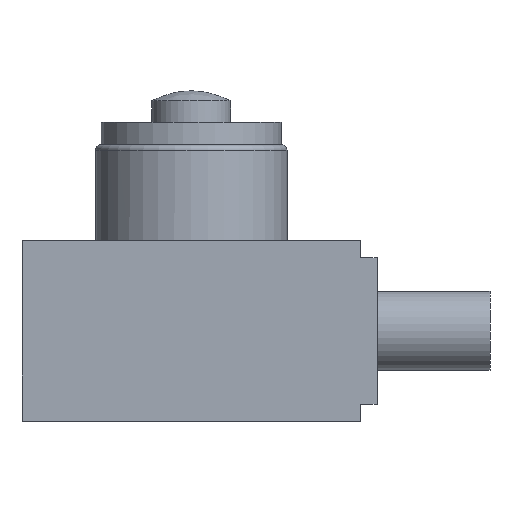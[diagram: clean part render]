
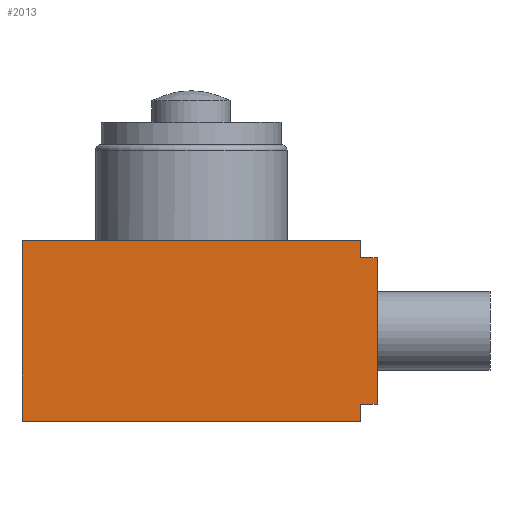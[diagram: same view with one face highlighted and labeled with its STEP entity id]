
A CAD part, front view. The second image highlights one B-rep face of the part: STEP entity #2013.
In plain terms, the highlighted planar face has unit normal (0, -1, 0) as drawn and (0, 0, -1) by its records, which use the part's own axes.
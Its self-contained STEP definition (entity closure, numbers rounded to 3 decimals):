
#125=LINE('',#3164,#297);
#129=LINE('',#3175,#301);
#137=LINE('',#3190,#309);
#169=LINE('',#3293,#341);
#185=LINE('',#3338,#357);
#201=LINE('',#3371,#373);
#204=LINE('',#3376,#376);
#205=LINE('',#3378,#377);
#297=VECTOR('',#2594,13.);
#301=VECTOR('',#2602,1.5);
#309=VECTOR('',#2610,1.5);
#341=VECTOR('',#2714,30.);
#357=VECTOR('',#2758,16.);
#373=VECTOR('',#2796,30.);
#376=VECTOR('',#2803,1.5);
#377=VECTOR('',#2806,1.5);
#443=PLANE('',#2222);
#657=FACE_OUTER_BOUND('',#807,.T.);
#807=EDGE_LOOP('',(#1846,#1847,#1848,#1849,#1850,#1851,#1852,#1853));
#1006=VERTEX_POINT('',#3161);
#1007=VERTEX_POINT('',#3163);
#1009=VERTEX_POINT('',#3168);
#1011=VERTEX_POINT('',#3172);
#1012=VERTEX_POINT('',#3174);
#1019=VERTEX_POINT('',#3188);
#1054=VERTEX_POINT('',#3291);
#1069=VERTEX_POINT('',#3336);
#1231=EDGE_CURVE('',#1007,#1006,#125,.T.);
#1236=EDGE_CURVE('',#1012,#1011,#129,.T.);
#1244=EDGE_CURVE('',#1009,#1019,#137,.T.);
#1293=EDGE_CURVE('',#1019,#1054,#169,.T.);
#1315=EDGE_CURVE('',#1069,#1054,#185,.T.);
#1332=EDGE_CURVE('',#1069,#1012,#201,.T.);
#1335=EDGE_CURVE('',#1011,#1007,#204,.T.);
#1336=EDGE_CURVE('',#1009,#1006,#205,.T.);
#1846=ORIENTED_EDGE('',*,*,#1231,.T.);
#1847=ORIENTED_EDGE('',*,*,#1336,.F.);
#1848=ORIENTED_EDGE('',*,*,#1244,.T.);
#1849=ORIENTED_EDGE('',*,*,#1293,.T.);
#1850=ORIENTED_EDGE('',*,*,#1315,.F.);
#1851=ORIENTED_EDGE('',*,*,#1332,.T.);
#1852=ORIENTED_EDGE('',*,*,#1236,.T.);
#1853=ORIENTED_EDGE('',*,*,#1335,.T.);
#2013=ADVANCED_FACE('',(#657),#443,.T.);
#2222=AXIS2_PLACEMENT_3D('',#3377,#2804,#2805);
#2594=DIRECTION('',(0.,-1.,0.));
#2602=DIRECTION('',(0.,-1.,0.));
#2610=DIRECTION('',(0.,-1.,0.));
#2714=DIRECTION('',(-1.,0.,0.));
#2758=DIRECTION('',(0.,-1.,0.));
#2796=DIRECTION('',(1.,0.,0.));
#2803=DIRECTION('',(1.,0.,0.));
#2804=DIRECTION('center_axis',(0.,0.,-1.));
#2805=DIRECTION('ref_axis',(-1.,0.,0.));
#2806=DIRECTION('',(1.,0.,0.));
#3161=CARTESIAN_POINT('',(16.5,-14.5,-40.));
#3163=CARTESIAN_POINT('',(16.5,-1.5,-40.));
#3164=CARTESIAN_POINT('',(16.5,-1.5,-40.));
#3168=CARTESIAN_POINT('',(15.,-14.5,-40.));
#3172=CARTESIAN_POINT('',(15.,-1.5,-40.));
#3174=CARTESIAN_POINT('',(15.,0.,-40.));
#3175=CARTESIAN_POINT('',(15.,0.,-40.));
#3188=CARTESIAN_POINT('',(15.,-16.,-40.));
#3190=CARTESIAN_POINT('',(15.,-14.5,-40.));
#3291=CARTESIAN_POINT('',(-15.,-16.,-40.));
#3293=CARTESIAN_POINT('',(15.,-16.,-40.));
#3336=CARTESIAN_POINT('',(-15.,0.,-40.));
#3338=CARTESIAN_POINT('',(-15.,0.,-40.));
#3371=CARTESIAN_POINT('',(-15.,0.,-40.));
#3376=CARTESIAN_POINT('',(15.,-1.5,-40.));
#3377=CARTESIAN_POINT('Origin',(15.,-1.5,-40.));
#3378=CARTESIAN_POINT('',(15.,-14.5,-40.));
